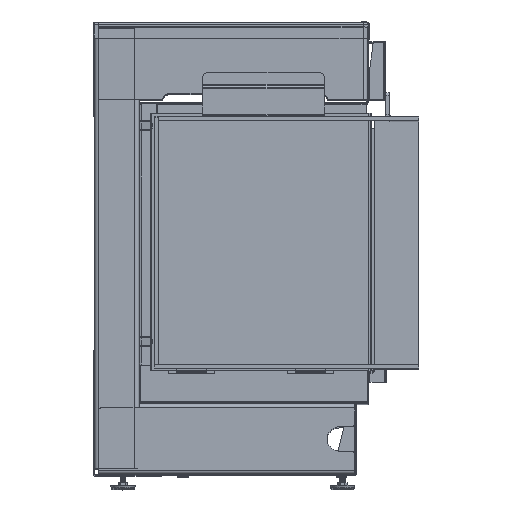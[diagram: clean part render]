
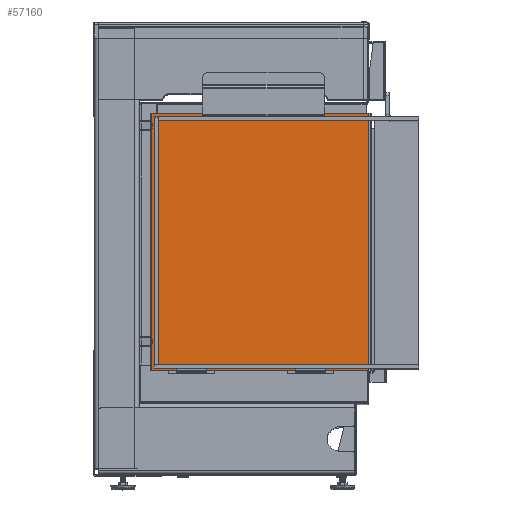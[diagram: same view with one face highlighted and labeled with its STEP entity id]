
A CAD part, top view. The second image highlights one B-rep face of the part: STEP entity #57160.
In plain terms, the highlighted planar face has unit normal (0, 0, 1).
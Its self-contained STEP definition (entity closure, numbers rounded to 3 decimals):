
#1148 = CARTESIAN_POINT ( 'NONE',  ( 17.9, 473., 548.7 ) ) ;
#3331 = EDGE_CURVE ( 'Defeatured_11_1+Defeatured_11_13+Defeatured_11_11+Defeatured_11_12', #28988, #31468, #72149, .T. ) ;
#5653 = VECTOR ( 'NONE', #15493, 1000. ) ;
#6149 = DIRECTION ( 'NONE',  ( -1., 0., 0. ) ) ;
#6340 = ORIENTED_EDGE ( 'NONE', *, *, #51647, .T. ) ;
#6889 = PLANE ( 'NONE',  #18411 ) ;
#13611 = CARTESIAN_POINT ( 'NONE',  ( 18.4, 473., 548.7 ) ) ;
#13819 = VECTOR ( 'NONE', #31325, 1000. ) ;
#15160 = CARTESIAN_POINT ( 'NONE',  ( 374.4, 473., 548.7 ) ) ;
#15493 = DIRECTION ( 'NONE',  ( 1., 0., 0. ) ) ;
#18411 = AXIS2_PLACEMENT_3D ( 'NONE', #1148, #29662, #6149 ) ;
#18860 = ORIENTED_EDGE ( 'NONE', *, *, #47073, .T. ) ;
#20265 = LINE ( 'NONE', #24937, #25393 ) ;
#20934 = LINE ( 'NONE', #15160, #46966 ) ;
#21631 = LINE ( 'NONE', #64016, #5653 ) ;
#22555 = EDGE_CURVE ( 'Defeatured_11_1+Defeatured_11_12+Defeatured_11_13+Defeatured_11_10', #31468, #58783, #21631, .T. ) ;
#24937 = CARTESIAN_POINT ( 'NONE',  ( 17.9, 472.5, 548.7 ) ) ;
#25393 = VECTOR ( 'NONE', #72681, 1000. ) ;
#27038 = CARTESIAN_POINT ( 'NONE',  ( 374.4, 472.5, 548.7 ) ) ;
#28988 = VERTEX_POINT ( 'NONE', #35062 ) ;
#29662 = DIRECTION ( 'NONE',  ( 0., 0., -1. ) ) ;
#31325 = DIRECTION ( 'NONE',  ( 0., -1., 0. ) ) ;
#31468 = VERTEX_POINT ( 'NONE', #56349 ) ;
#32323 = ORIENTED_EDGE ( 'NONE', *, *, #22555, .T. ) ;
#35062 = CARTESIAN_POINT ( 'NONE',  ( 18.4, 472.5, 548.7 ) ) ;
#43071 = FACE_OUTER_BOUND ( 'NONE', #72524, .T. ) ;
#45280 = VERTEX_POINT ( 'NONE', #27038 ) ;
#46966 = VECTOR ( 'NONE', #68308, 1000. ) ;
#47073 = EDGE_CURVE ( 'Defeatured_11_1+Defeatured_11_10+Defeatured_11_12+Defeatured_11_11', #58783, #45280, #20934, .T. ) ;
#51647 = EDGE_CURVE ( 'Defeatured_11_1+Defeatured_11_11+Defeatured_11_10+Defeatured_11_13', #45280, #28988, #20265, .T. ) ;
#52798 = CARTESIAN_POINT ( 'NONE',  ( 374.4, 51.5, 548.7 ) ) ;
#56349 = CARTESIAN_POINT ( 'NONE',  ( 18.4, 51.5, 548.7 ) ) ;
#57160 = ADVANCED_FACE ( 'Defeatured_11_1', ( #43071 ), #6889, .F. ) ;
#58783 = VERTEX_POINT ( 'NONE', #52798 ) ;
#61247 = ORIENTED_EDGE ( 'NONE', *, *, #3331, .T. ) ;
#64016 = CARTESIAN_POINT ( 'NONE',  ( 17.9, 51.5, 548.7 ) ) ;
#68308 = DIRECTION ( 'NONE',  ( 0., 1., 0. ) ) ;
#72149 = LINE ( 'NONE', #13611, #13819 ) ;
#72524 = EDGE_LOOP ( 'NONE', ( #6340, #61247, #32323, #18860 ) ) ;
#72681 = DIRECTION ( 'NONE',  ( -1., 0., 0. ) ) ;
